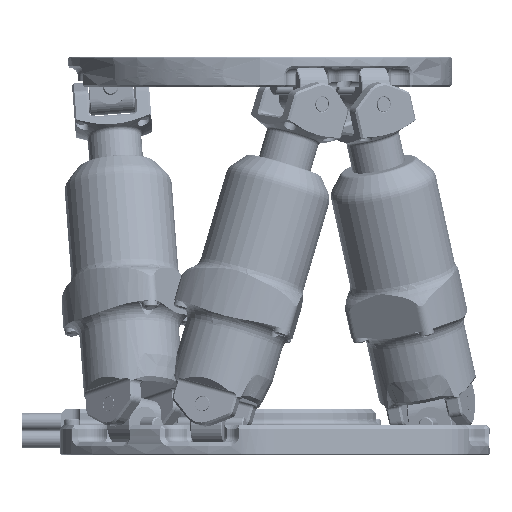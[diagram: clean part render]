
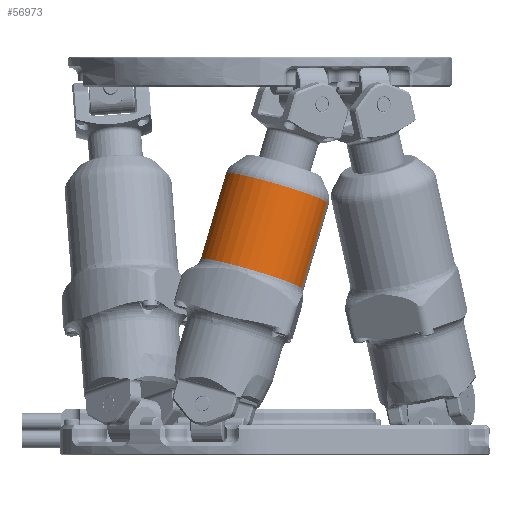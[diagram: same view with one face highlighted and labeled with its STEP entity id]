
A CAD part, front view. The second image highlights one B-rep face of the part: STEP entity #56973.
In plain terms, the highlighted cylindrical face has radius 14 mm (diameter 28 mm), a partial arc.
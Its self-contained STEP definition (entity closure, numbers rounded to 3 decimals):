
#716 = DIRECTION ( 'NONE',  ( 1., 0., 0. ) ) ;
#2902 = DIRECTION ( 'NONE',  ( 0., -1., 0. ) ) ;
#3082 = ORIENTED_EDGE ( 'NONE', *, *, #5912, .T. ) ;
#4234 = VERTEX_POINT ( 'NONE', #18313 ) ;
#5912 = EDGE_CURVE ( 'NONE', #25759, #10527, #21892, .T. ) ;
#6338 = CIRCLE ( 'NONE', #25885, 14. ) ;
#7365 = FACE_OUTER_BOUND ( 'NONE', #26109, .T. ) ;
#8730 = DIRECTION ( 'NONE',  ( 0., 0., 1. ) ) ;
#9725 = VERTEX_POINT ( 'NONE', #50178 ) ;
#10527 = VERTEX_POINT ( 'NONE', #24413 ) ;
#12522 = ORIENTED_EDGE ( 'NONE', *, *, #55529, .F. ) ;
#14064 = CIRCLE ( 'NONE', #57519, 14. ) ;
#17782 = DIRECTION ( 'NONE',  ( 0., 0., 1. ) ) ;
#18313 = CARTESIAN_POINT ( 'NONE',  ( 14., 0., 60.277 ) ) ;
#18836 = CARTESIAN_POINT ( 'NONE',  ( 0., 0., 60.277 ) ) ;
#21646 = EDGE_CURVE ( 'NONE', #10527, #9725, #14064, .T. ) ;
#21892 = LINE ( 'NONE', #33095, #43074 ) ;
#22244 = LINE ( 'NONE', #27366, #53623 ) ;
#23272 = CARTESIAN_POINT ( 'NONE',  ( 0., 0., 60.277 ) ) ;
#24413 = CARTESIAN_POINT ( 'NONE',  ( -14., 0., 60.277 ) ) ;
#25759 = VERTEX_POINT ( 'NONE', #66572 ) ;
#25885 = AXIS2_PLACEMENT_3D ( 'NONE', #18836, #60310, #28400 ) ;
#26109 = EDGE_LOOP ( 'NONE', ( #43037, #3082, #46149, #47889, #12522 ) ) ;
#26759 = EDGE_CURVE ( 'NONE', #9725, #4234, #6338, .T. ) ;
#27366 = CARTESIAN_POINT ( 'NONE',  ( 14., 0., 37.34 ) ) ;
#27428 = EDGE_CURVE ( 'NONE', #64847, #25759, #53056, .T. ) ;
#28400 = DIRECTION ( 'NONE',  ( 0., -1., 0. ) ) ;
#32892 = DIRECTION ( 'NONE',  ( 0., 0., 1. ) ) ;
#33095 = CARTESIAN_POINT ( 'NONE',  ( -14., 0., 37.34 ) ) ;
#37988 = CYLINDRICAL_SURFACE ( 'NONE', #51643, 14. ) ;
#43037 = ORIENTED_EDGE ( 'NONE', *, *, #27428, .T. ) ;
#43074 = VECTOR ( 'NONE', #17782, 1000. ) ;
#46020 = CARTESIAN_POINT ( 'NONE',  ( 14., 0., 36.863 ) ) ;
#46149 = ORIENTED_EDGE ( 'NONE', *, *, #21646, .T. ) ;
#47430 = DIRECTION ( 'NONE',  ( 0., 0., 1. ) ) ;
#47889 = ORIENTED_EDGE ( 'NONE', *, *, #26759, .T. ) ;
#50126 = DIRECTION ( 'NONE',  ( 0., 0., -1. ) ) ;
#50178 = CARTESIAN_POINT ( 'NONE',  ( 0., 14., 60.277 ) ) ;
#51643 = AXIS2_PLACEMENT_3D ( 'NONE', #64478, #32892, #716 ) ;
#53056 = CIRCLE ( 'NONE', #61723, 14. ) ;
#53623 = VECTOR ( 'NONE', #47430, 1000. ) ;
#55529 = EDGE_CURVE ( 'NONE', #64847, #4234, #22244, .T. ) ;
#56973 = ADVANCED_FACE ( 'NONE', ( #7365 ), #37988, .T. ) ;
#57519 = AXIS2_PLACEMENT_3D ( 'NONE', #23272, #50126, #2902 ) ;
#60310 = DIRECTION ( 'NONE',  ( 0., 0., -1. ) ) ;
#61723 = AXIS2_PLACEMENT_3D ( 'NONE', #64492, #8730, #64822 ) ;
#64478 = CARTESIAN_POINT ( 'NONE',  ( 0., 0., 37.34 ) ) ;
#64492 = CARTESIAN_POINT ( 'NONE',  ( 0., 0., 36.863 ) ) ;
#64822 = DIRECTION ( 'NONE',  ( 1., 0., 0. ) ) ;
#64847 = VERTEX_POINT ( 'NONE', #46020 ) ;
#66572 = CARTESIAN_POINT ( 'NONE',  ( -14., 0., 36.863 ) ) ;
